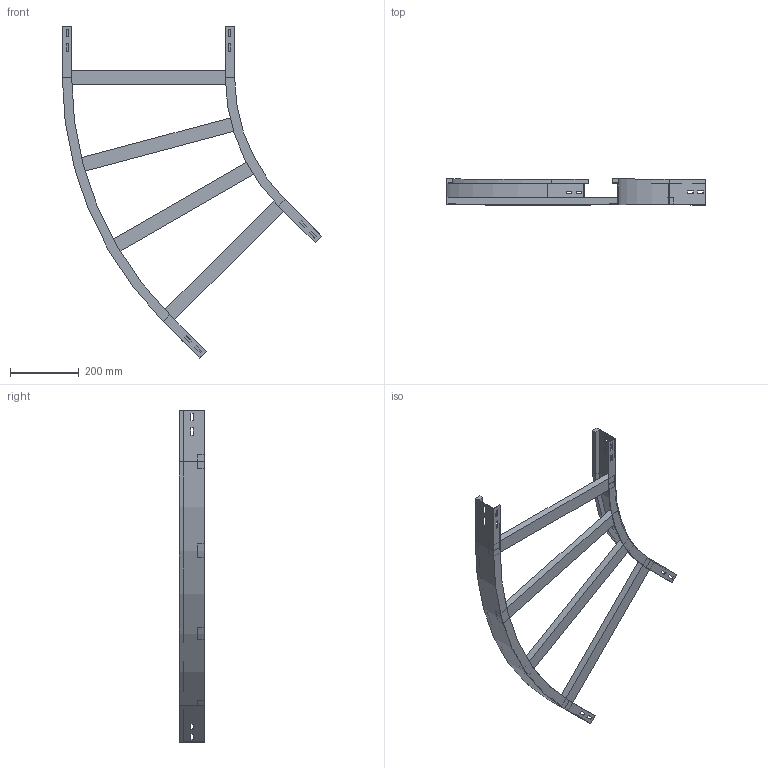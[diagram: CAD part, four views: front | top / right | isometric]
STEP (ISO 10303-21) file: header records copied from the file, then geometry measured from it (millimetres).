
FILE_DESCRIPTION (( 'STEP AP214' ), '1' );
FILE_NAME ('11B5C500.step', '2025-02-21T15:15:31', ( '' ), ( '' ), 'SwSTEP 2.0', 'SolidWorks 2023', '' );
FILE_SCHEMA (( 'AUTOMOTIVE_DESIGN' ));
Length unit declared in the file: millimetre
Products named in the file (4): A2_LONGH.ESTERNO 45°_H75_R500+500; TRAVERSINO_500; 11B5C500; A2_LONGH.INTERNO 45°_H75_R500
Assembly tree (6 placements, depth 2):
  11B5C500
    A2_LONGH.INTERNO 45°_H75_R500
    A2_LONGH.ESTERNO 45°_H75_R500+500
    TRAVERSINO_500  x4
Bounding box: 752.51 x 75 x 963.17 mm (x, y, z)
Volume: 2299126.1 mm3; surface area: 664670.9 mm2
Topology: 6 solids, 6 shells, 140 faces, 352 edges, 224 vertices
Faces by surface type: plane 132, cylinder 8
Entity records: 3829 total; most frequent: CARTESIAN_POINT 647, ORIENTED_EDGE 632, DIRECTION 594, EDGE_CURVE 316, LINE 300, VECTOR 300, VERTEX_POINT 200, EDGE_LOOP 154
